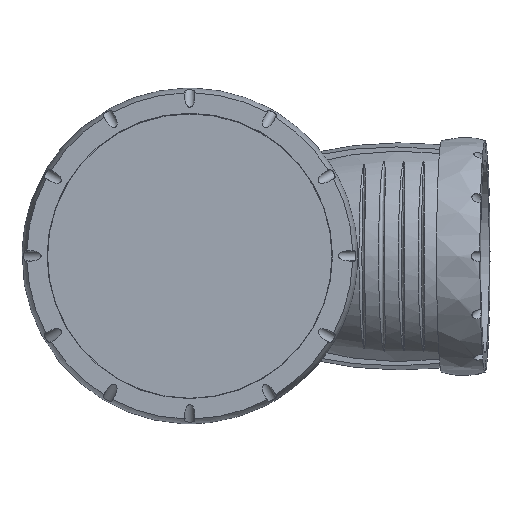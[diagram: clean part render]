
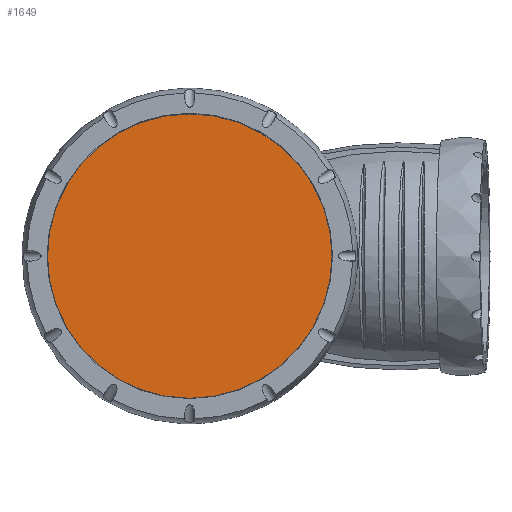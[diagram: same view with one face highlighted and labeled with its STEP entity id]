
A CAD part, top view. The second image highlights one B-rep face of the part: STEP entity #1649.
In plain terms, the highlighted planar face has unit normal (0, 0, 1).
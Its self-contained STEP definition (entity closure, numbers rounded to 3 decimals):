
#223=PLANE('',#1783);
#302=FACE_OUTER_BOUND('',#412,.T.);
#412=EDGE_LOOP('',(#1063));
#551=CIRCLE('',#1784,55.5);
#629=VERTEX_POINT('',#2413);
#807=EDGE_CURVE('',#629,#629,#551,.T.);
#1063=ORIENTED_EDGE('',*,*,#807,.T.);
#1649=ADVANCED_FACE('',(#302),#223,.T.);
#1783=AXIS2_PLACEMENT_3D('',#2412,#1986,#1987);
#1784=AXIS2_PLACEMENT_3D('',#2414,#1988,#1989);
#1986=DIRECTION('center_axis',(0.,0.,
1.));
#1987=DIRECTION('ref_axis',(0.,1.,0.));
#1988=DIRECTION('center_axis',(0.,0.,
1.));
#1989=DIRECTION('ref_axis',(0.,1.,0.));
#2412=CARTESIAN_POINT('Origin',(0.,0.,
157.3));
#2413=CARTESIAN_POINT('',(-55.5,0.,157.3));
#2414=CARTESIAN_POINT('Origin',(0.,0.,
157.3));
